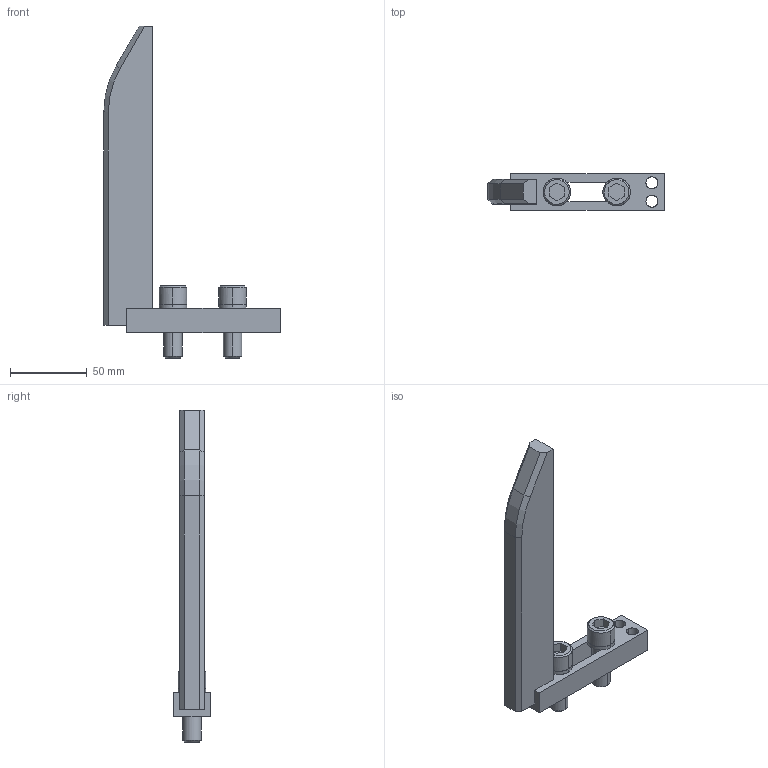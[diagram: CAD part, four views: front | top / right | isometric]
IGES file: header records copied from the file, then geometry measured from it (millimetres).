
Global section: file name: E:\UnigraphicsGraphicData\MISUMI_PRESS-PARTS\IGES\3d_ngnba-200-40-m12_01530_r00.igs; native system: NX V5.0; preprocessor: UGS NX IGES V5.0; author: MISUMI; date: 20110105.162048; units: millimetre
Bounding box: 115 x 24 x 216.5 mm (x, y, z)
Surface area: 34868.7 mm2 (no closed solid volume)
Topology: 0 solids, 0 shells, 100 faces, 630 edges, 630 vertices
Faces by surface type: bspline 100
